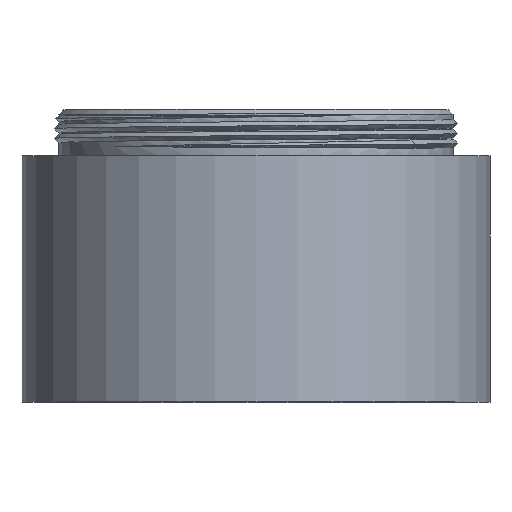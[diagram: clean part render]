
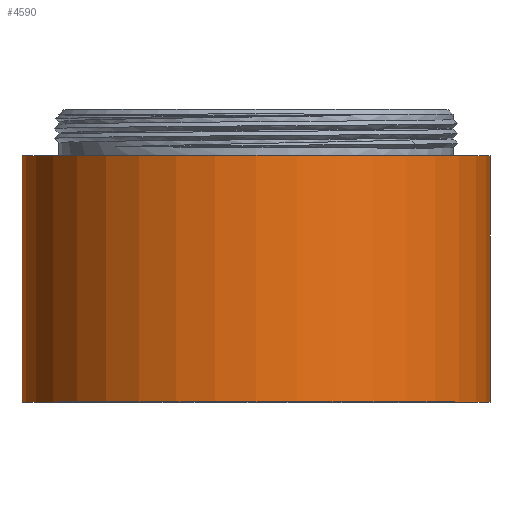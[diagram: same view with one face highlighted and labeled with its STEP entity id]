
A CAD part, top view. The second image highlights one B-rep face of the part: STEP entity #4590.
In plain terms, the highlighted cylindrical face has radius 15.2 mm (diameter 30.4 mm), a partial arc.
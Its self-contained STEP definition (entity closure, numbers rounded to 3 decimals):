
#6=CARTESIAN_POINT('',(0.,0.,0.));
#7=DIRECTION('',(0.,1.,0.));
#8=DIRECTION('',(-1.,0.,0.));
#9=AXIS2_PLACEMENT_3D('',#6,#7,#8);
#60=DIRECTION('',(0.,1.,0.));
#61=VECTOR('',#60,16.);
#62=CARTESIAN_POINT('',(15.2,0.,0.));
#63=LINE('',#62,#61);
#64=DIRECTION('',(0.,1.,0.));
#65=VECTOR('',#64,16.);
#66=CARTESIAN_POINT('',(-15.2,0.,0.));
#67=LINE('',#66,#65);
#73=CARTESIAN_POINT('',(0.,16.,0.));
#74=DIRECTION('',(0.,1.,0.));
#75=DIRECTION('',(-1.,0.,0.));
#76=AXIS2_PLACEMENT_3D('',#73,#74,#75);
#4359=CARTESIAN_POINT('',(15.2,0.,0.));
#4360=CARTESIAN_POINT('',(-15.2,0.,0.));
#4361=VERTEX_POINT('',#4359);
#4362=VERTEX_POINT('',#4360);
#4363=CARTESIAN_POINT('',(15.2,16.,0.));
#4364=CARTESIAN_POINT('',(-15.2,16.,0.));
#4365=VERTEX_POINT('',#4363);
#4366=VERTEX_POINT('',#4364);
#4578=CARTESIAN_POINT('',(0.,0.,0.));
#4579=DIRECTION('',(0.,1.,0.));
#4580=DIRECTION('',(1.,0.,0.));
#4581=AXIS2_PLACEMENT_3D('',#4578,#4579,#4580);
#4582=CYLINDRICAL_SURFACE('',#4581,15.2);
#4583=ORIENTED_EDGE('',*,*,#4550,.F.);
#4584=ORIENTED_EDGE('',*,*,#4573,.T.);
#4586=ORIENTED_EDGE('',*,*,#4585,.T.);
#4587=ORIENTED_EDGE('',*,*,#4569,.F.);
#4588=EDGE_LOOP('',(#4583,#4584,#4586,#4587));
#4589=FACE_OUTER_BOUND('',#4588,.F.);
#4590=ADVANCED_FACE('',(#4589),#4582,.T.);
#10=CIRCLE('',#9,15.2);
#77=CIRCLE('',#76,15.2);
#4550=EDGE_CURVE('',#4362,#4361,#10,.T.);
#4569=EDGE_CURVE('',#4361,#4365,#63,.T.);
#4573=EDGE_CURVE('',#4362,#4366,#67,.T.);
#4585=EDGE_CURVE('',#4366,#4365,#77,.T.);
